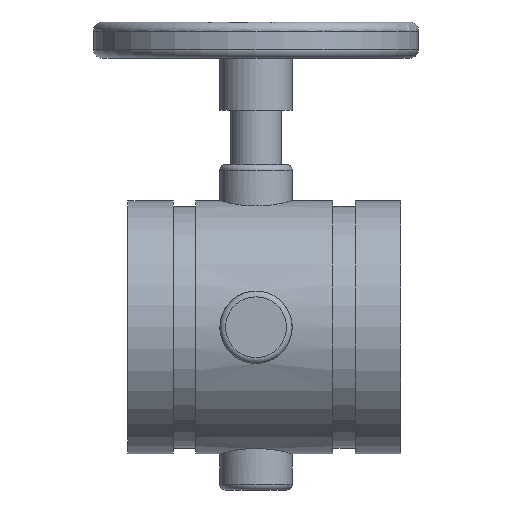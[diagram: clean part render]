
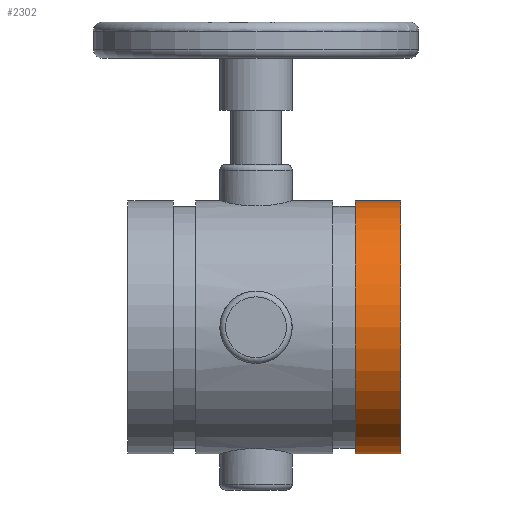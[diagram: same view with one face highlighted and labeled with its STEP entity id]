
A CAD part, front view. The second image highlights one B-rep face of the part: STEP entity #2302.
In plain terms, the highlighted cylindrical face has radius 44.45 mm (diameter 88.9 mm), a full revolution.
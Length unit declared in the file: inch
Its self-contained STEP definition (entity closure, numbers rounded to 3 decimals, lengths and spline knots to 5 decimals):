
#79=CYLINDRICAL_SURFACE('',#2519,1.75);
#185=CIRCLE('',#2517,1.75);
#186=CIRCLE('',#2518,1.75);
#187=CIRCLE('',#2520,1.75);
#188=CIRCLE('',#2521,1.75);
#354=FACE_OUTER_BOUND('',#487,.T.);
#487=EDGE_LOOP('',(#1892,#1893,#1894,#1895,#1896,#1897));
#665=LINE('',#4249,#844);
#844=VECTOR('',#3078,1.75);
#1050=VERTEX_POINT('',#4240);
#1051=VERTEX_POINT('',#4241);
#1052=VERTEX_POINT('',#4245);
#1053=VERTEX_POINT('',#4246);
#1347=EDGE_CURVE('',#1050,#1051,#185,.T.);
#1348=EDGE_CURVE('',#1051,#1050,#186,.T.);
#1349=EDGE_CURVE('',#1052,#1053,#187,.T.);
#1350=EDGE_CURVE('',#1053,#1052,#188,.T.);
#1351=EDGE_CURVE('',#1053,#1051,#665,.T.);
#1892=ORIENTED_EDGE('',*,*,#1349,.F.);
#1893=ORIENTED_EDGE('',*,*,#1350,.F.);
#1894=ORIENTED_EDGE('',*,*,#1351,.T.);
#1895=ORIENTED_EDGE('',*,*,#1348,.T.);
#1896=ORIENTED_EDGE('',*,*,#1347,.T.);
#1897=ORIENTED_EDGE('',*,*,#1351,.F.);
#2302=ADVANCED_FACE('',(#354),#79,.T.);
#2517=AXIS2_PLACEMENT_3D('',#4242,#3068,#3069);
#2518=AXIS2_PLACEMENT_3D('',#4243,#3070,#3071);
#2519=AXIS2_PLACEMENT_3D('',#4244,#3072,#3073);
#2520=AXIS2_PLACEMENT_3D('',#4247,#3074,#3075);
#2521=AXIS2_PLACEMENT_3D('',#4248,#3076,#3077);
#3068=DIRECTION('center_axis',(1.,0.,0.));
#3069=DIRECTION('ref_axis',(0.,0.,1.));
#3070=DIRECTION('center_axis',(1.,0.,0.));
#3071=DIRECTION('ref_axis',(0.,0.,1.));
#3072=DIRECTION('center_axis',(1.,0.,0.));
#3073=DIRECTION('ref_axis',(0.,1.,0.));
#3074=DIRECTION('center_axis',(1.,0.,0.));
#3075=DIRECTION('ref_axis',(0.,0.,1.));
#3076=DIRECTION('center_axis',(1.,0.,0.));
#3077=DIRECTION('ref_axis',(0.,0.,1.));
#3078=DIRECTION('',(-1.,0.,0.));
#4240=CARTESIAN_POINT('',(1.26,1.75,0.));
#4241=CARTESIAN_POINT('',(1.26,-1.75,0.));
#4242=CARTESIAN_POINT('Origin',(1.26,0.,0.));
#4243=CARTESIAN_POINT('Origin',(1.26,0.,0.));
#4244=CARTESIAN_POINT('Origin',(1.5725,0.,0.));
#4245=CARTESIAN_POINT('',(1.885,1.75,0.));
#4246=CARTESIAN_POINT('',(1.885,-1.75,0.));
#4247=CARTESIAN_POINT('Origin',(1.885,0.,0.));
#4248=CARTESIAN_POINT('Origin',(1.885,0.,0.));
#4249=CARTESIAN_POINT('',(1.5725,-1.75,0.));
